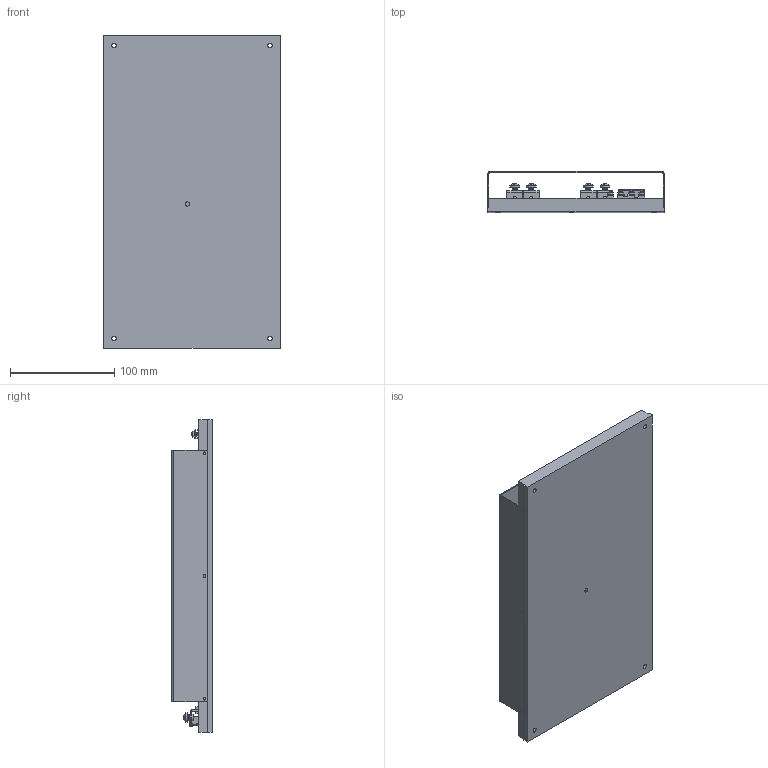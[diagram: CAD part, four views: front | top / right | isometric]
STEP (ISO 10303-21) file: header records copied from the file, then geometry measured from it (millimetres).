
FILE_DESCRIPTION(/* description */ (''),/* implementation_level */ '2;1');
FILE_NAME(/* name */ '',/* time_stamp */ '',/* author */ (''),/* organization */ (''),/* preprocessor_version */ '',/* originating_system */ '',/* authorisation */ '');
FILE_SCHEMA (('AUTOMOTIVE_DESIGN { 1 0 10303 214 3 1 1 }'));
Length unit declared in the file: inch
Products named in the file (1): JETNA5000-LP_full
Bounding box: 170 x 39 x 300 mm (x, y, z)
Volume: 670357.1 mm3; surface area: 230380.9 mm2
Topology: 2 solids, 2 shells, 1110 faces, 2663 edges, 1604 vertices
Faces by surface type: plane 637, cylinder 285, cone 128, torus 52, sphere 8
Full cylindrical faces by diameter (mm): 2.5 x10, 3 x40, 3.8 x1, 4 x6, 4.2 x4, 4.3 x4, 5 x12, 5.6 x4, 6.3 x4, 9.5 x4
Entity records: 31801 total; most frequent: CARTESIAN_POINT 5769, DIRECTION 5388, ORIENTED_EDGE 4760, EDGE_CURVE 2380, AXIS2_PLACEMENT_3D 1961, VERTEX_POINT 1510, LINE 1466, VECTOR 1466
